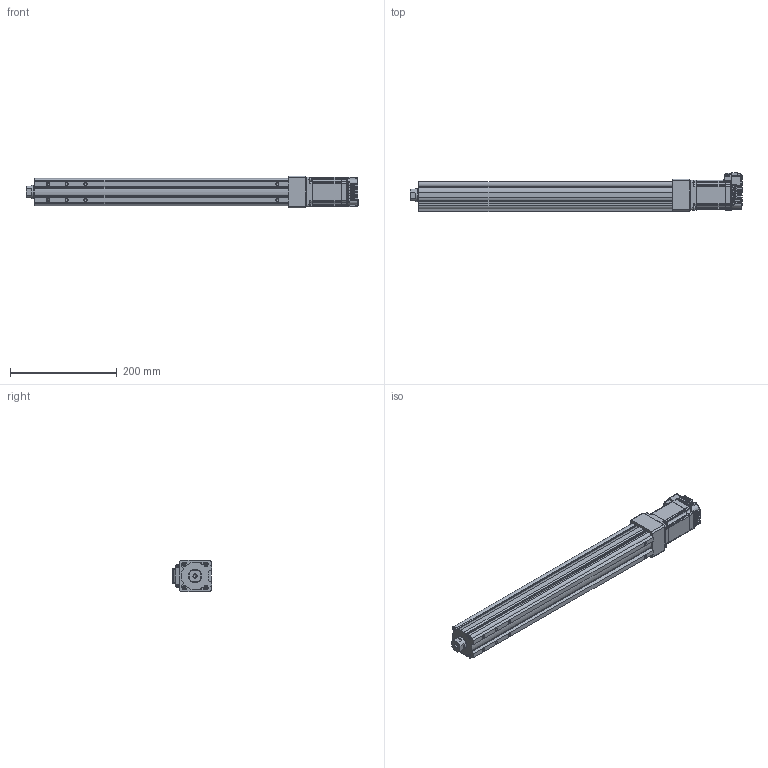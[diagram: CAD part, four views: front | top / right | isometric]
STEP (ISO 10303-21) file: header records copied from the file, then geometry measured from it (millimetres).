
FILE_DESCRIPTION (( 'STEP AP214' ), '1' );
FILE_NAME ('LEY3(+)-32DNM1□-350-23L.STEP', '2023-04-06T07:48:47', ( '' ), ( '' ), 'SwSTEP 2.0', 'SolidWorks 2019', '' );
FILE_SCHEMA (( 'AUTOMOTIVE_DESIGN' ));
Length unit declared in the file: millimetre
Products named in the file (5): CM3(+)-23L50A_2-M4_01; LEY3(+)-32DNM1_MOTOR Flange; LEY3(+)-32NM1?_ROD_350; LEY3(+)-32DNM1□-350-23L; LEY3(+)-32NM1?_BODY_350
Assembly tree (4 placements, depth 2):
  LEY3(+)-32DNM1□-350-23L
    LEY3(+)-32NM1?_BODY_350
    LEY3(+)-32NM1?_ROD_350
    LEY3(+)-32DNM1_MOTOR Flange
    CM3(+)-23L50A_2-M4_01
Bounding box: 622.8 x 73.75 x 60 mm (x, y, z)
Volume: 1486410.6 mm3; surface area: 252754.6 mm2
Topology: 4 solids, 13 shells, 1439 faces, 3713 edges, 2295 vertices
Faces by surface type: plane 668, cylinder 432, bspline 133, cone 101, torus 58, sphere 47
Full cylindrical faces by diameter (mm): 2.5 x4, 3 x2, 3.2 x4, 4.2 x1, 4.5 x7, 4.9 x10, 5 x1, 6.2 x4, 6.35 x1, 6.8 x1, 7 x2, 8 x2, 24.8 x1, 25 x2, 32 x2, 38.1 x1
Entity records: 49056 total; most frequent: CARTESIAN_POINT 12638, ORIENTED_EDGE 7102, DIRECTION 6555, EDGE_CURVE 3551, VERTEX_POINT 2267, AXIS2_PLACEMENT_3D 2230, VECTOR 2095, LINE 2095
